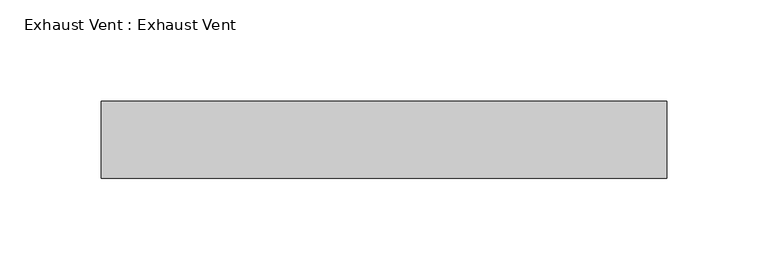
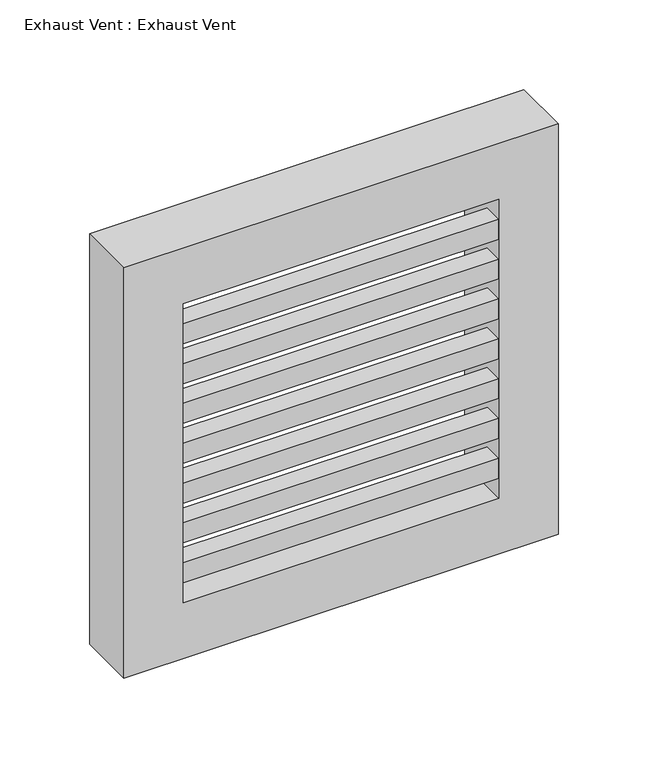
"""IFC4 building model written with IfcOpenShell, lengths in millimetres: proxy geometry, Exhaust Vent : Exhaust Vent."""

from ifc_helpers import new_model, si_unit, frame, origin, place, context, project, spatial, polyline, outline, extrude, source, transform, mapped, element, save


def exhaust_vent_exhaust_vent_d7c90e6a(model_context):
    return source(origin(), model_context, "Body", "SweptSolid", [
        extrude(outline(polyline([(2070.1, -147.8443955), (1790.7, -147.8443955), (1790.7, 131.5556045), (2070.1, 131.5556045), (2070.1, -147.8443955)]), holes=[polyline([(2032.0, 93.4556045), (1828.8, 93.4556045), (1828.8, -109.7443955), (2032.0, -109.7443955), (2032.0, 93.4556045)])]), frame((0.0, 279.4, 0.0), z_axis=(0.0, 1.0, 0.0), x_axis=(0.0, 0.0, 1.0)), (0.0, 0.0, 1.0), 38.1),
        extrude(outline(polyline([(93.4556045, 279.4), (-109.7443955, 279.4), (-109.7443955, 292.1), (93.4556045, 292.1), (93.4556045, 279.4)])), frame((0.0, 0.0, 2004.9066667), z_axis=(0.0, 0.0, 1.0), x_axis=(1.0, 0.0, 0.0)), (0.0, 0.0, 1.0), 13.5466667),
        extrude(outline(polyline([(93.4556045, 279.4), (-109.7443955, 279.4), (-109.7443955, 292.1), (93.4556045, 292.1), (93.4556045, 279.4)])), frame((0.0, 0.0, 1977.8133333), z_axis=(0.0, 0.0, 1.0), x_axis=(1.0, 0.0, 0.0)), (0.0, 0.0, 1.0), 13.5466667),
        extrude(outline(polyline([(93.4556045, 279.4), (-109.7443955, 279.4), (-109.7443955, 292.1), (93.4556045, 292.1), (93.4556045, 279.4)])), frame((0.0, 0.0, 1950.72), z_axis=(0.0, 0.0, 1.0), x_axis=(1.0, 0.0, 0.0)), (0.0, 0.0, 1.0), 13.5466667),
        extrude(outline(polyline([(93.4556045, 279.4), (-109.7443955, 279.4), (-109.7443955, 292.1), (93.4556045, 292.1), (93.4556045, 279.4)])), frame((0.0, 0.0, 1923.6266667), z_axis=(0.0, 0.0, 1.0), x_axis=(1.0, 0.0, 0.0)), (0.0, 0.0, 1.0), 13.5466667),
        extrude(outline(polyline([(93.4556045, 279.4), (-109.7443955, 279.4), (-109.7443955, 292.1), (93.4556045, 292.1), (93.4556045, 279.4)])), frame((0.0, 0.0, 1896.5333333), z_axis=(0.0, 0.0, 1.0), x_axis=(1.0, 0.0, 0.0)), (0.0, 0.0, 1.0), 13.5466667),
        extrude(outline(polyline([(93.4556045, 279.4), (-109.7443955, 279.4), (-109.7443955, 292.1), (93.4556045, 292.1), (93.4556045, 279.4)])), frame((0.0, 0.0, 1869.44), z_axis=(0.0, 0.0, 1.0), x_axis=(1.0, 0.0, 0.0)), (0.0, 0.0, 1.0), 13.5466667),
        extrude(outline(polyline([(93.4556045, 279.4), (-109.7443955, 279.4), (-109.7443955, 292.1), (93.4556045, 292.1), (93.4556045, 279.4)])), frame((0.0, 0.0, 1842.3466667), z_axis=(0.0, 0.0, 1.0), x_axis=(1.0, 0.0, 0.0)), (0.0, 0.0, 1.0), 13.5466667),
    ])


if __name__ == "__main__":
    model = new_model("IFC4")
    model_context = context("Model", 3, world=origin())
    ifc_project = project(units=[si_unit("LENGTHUNIT", "METRE", prefix="MILLI")], contexts=[model_context])
    site = spatial("IfcSite", under=ifc_project)
    building = spatial("IfcBuilding", under=site)
    placement = place(None, origin())
    exhaust_vent_exhaust_vent_shape = exhaust_vent_exhaust_vent_d7c90e6a(model_context)
    element("IfcBuildingElementProxy", 1, Name="Exhaust Vent : Exhaust Vent", ObjectType="Exhaust Vent : Exhaust Vent", at=placement, inside=building, context=model_context, shape_type="MappedRepresentation", body=[
        mapped(exhaust_vent_exhaust_vent_shape, transform((0.0, 0.0, 0.0), x_axis=(1.0, 0.0, 0.0), y_axis=(0.0, 1.0, 0.0), z_axis=(0.0, 0.0, 1.0))),
    ])
    save(model, "model.ifc")
